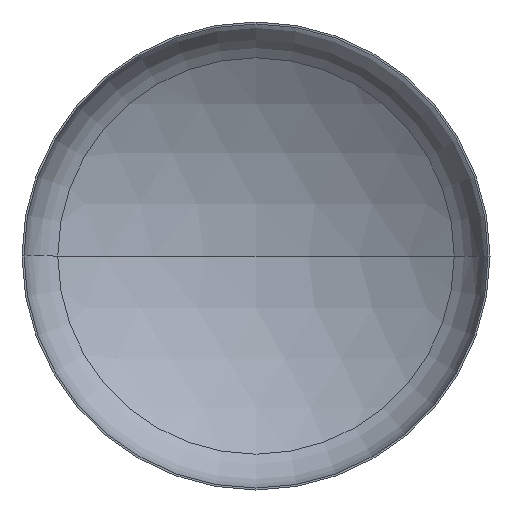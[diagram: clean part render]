
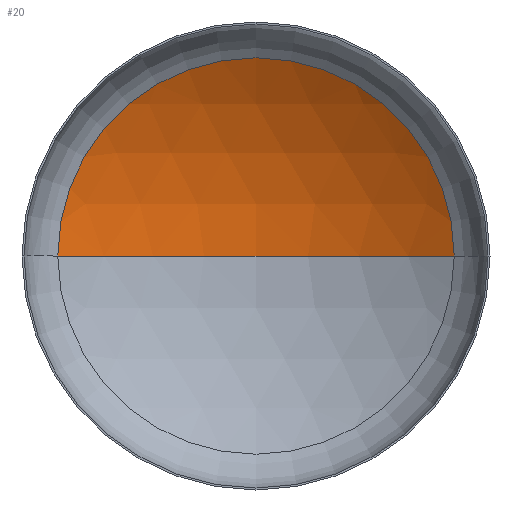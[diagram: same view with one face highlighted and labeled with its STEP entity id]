
A CAD part, front view. The second image highlights one B-rep face of the part: STEP entity #20.
In plain terms, the highlighted spherical face has radius 4400 mm.
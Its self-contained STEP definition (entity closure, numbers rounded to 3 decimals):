
#1 = DIRECTION ( 'NONE',  ( 1., 0., 0. ) ) ;
#3 = FACE_OUTER_BOUND ( 'NONE', #36, .T. ) ;
#7 = ORIENTED_EDGE ( 'NONE', *, *, #116, .T. ) ;
#18 = AXIS2_PLACEMENT_3D ( 'NONE', #61, #342, #337 ) ;
#20 = ADVANCED_FACE ( 'NONE', ( #3 ), #268, .F. ) ;
#21 = VERTEX_POINT ( 'NONE', #178 ) ;
#33 = VERTEX_POINT ( 'NONE', #335 ) ;
#36 = EDGE_LOOP ( 'NONE', ( #98, #77, #7 ) ) ;
#61 = CARTESIAN_POINT ( 'NONE',  ( 0., -2945.974, 0. ) ) ;
#77 = ORIENTED_EDGE ( 'NONE', *, *, #120, .T. ) ;
#98 = ORIENTED_EDGE ( 'NONE', *, *, #127, .F. ) ;
#116 = EDGE_CURVE ( 'NONE', #21, #376, #378, .T. ) ;
#120 = EDGE_CURVE ( 'NONE', #33, #21, #244, .T. ) ;
#127 = EDGE_CURVE ( 'NONE', #33, #376, #175, .T. ) ;
#170 = DIRECTION ( 'NONE',  ( -1., 0., 0. ) ) ;
#172 = DIRECTION ( 'NONE',  ( 0., 0., -1. ) ) ;
#173 = CARTESIAN_POINT ( 'NONE',  ( 0., -2945.974, 0. ) ) ;
#175 = CIRCLE ( 'NONE', #254, 4400. ) ;
#178 = CARTESIAN_POINT ( 'NONE',  ( 2329.339, 786.877, 0. ) ) ;
#200 = CARTESIAN_POINT ( 'NONE',  ( 0., 786.877, 0. ) ) ;
#216 = AXIS2_PLACEMENT_3D ( 'NONE', #200, #229, #1 ) ;
#217 = CARTESIAN_POINT ( 'NONE',  ( -2329.339, 786.877, 0. ) ) ;
#229 = DIRECTION ( 'NONE',  ( 0., -1., 0. ) ) ;
#236 = AXIS2_PLACEMENT_3D ( 'NONE', #173, #172, #170 ) ;
#244 = CIRCLE ( 'NONE', #236, 4400. ) ;
#251 = CARTESIAN_POINT ( 'NONE',  ( 0., -2945.974, 0. ) ) ;
#254 = AXIS2_PLACEMENT_3D ( 'NONE', #251, #280, #273 ) ;
#268 = SPHERICAL_SURFACE ( 'NONE', #18, 4400. ) ;
#273 = DIRECTION ( 'NONE',  ( 1., 0., 0. ) ) ;
#280 = DIRECTION ( 'NONE',  ( 0., 0., 1. ) ) ;
#335 = CARTESIAN_POINT ( 'NONE',  ( 0., 1454.026, 0. ) ) ;
#337 = DIRECTION ( 'NONE',  ( -1., 0., 0. ) ) ;
#342 = DIRECTION ( 'NONE',  ( 0., 0., -1. ) ) ;
#376 = VERTEX_POINT ( 'NONE', #217 ) ;
#378 = CIRCLE ( 'NONE', #216, 2329.339 ) ;
